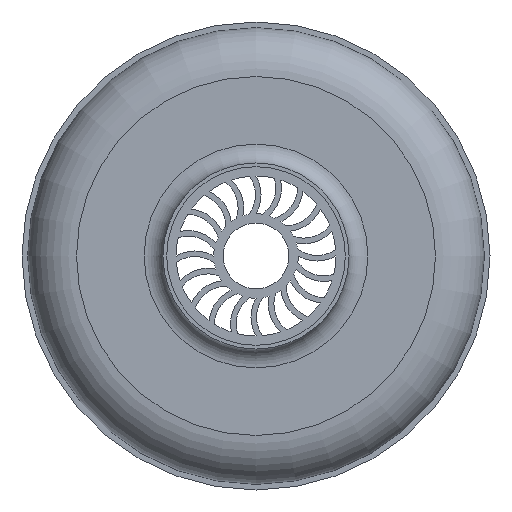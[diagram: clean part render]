
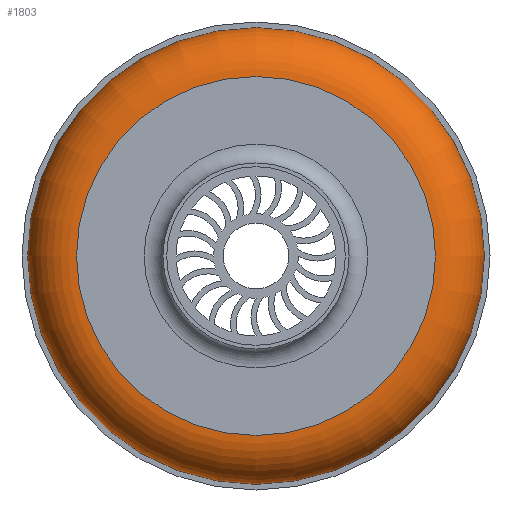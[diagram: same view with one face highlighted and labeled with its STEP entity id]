
A CAD part, left-side view. The second image highlights one B-rep face of the part: STEP entity #1803.
In plain terms, the highlighted toroidal (fillet/blend) face has major radius 95.5 mm and minor radius 26 mm.
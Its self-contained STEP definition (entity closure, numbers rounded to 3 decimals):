
#180=TOROIDAL_SURFACE('',#1926,95.5,26.);
#199=FACE_BOUND('',#378,.T.);
#265=FACE_OUTER_BOUND('',#377,.T.);
#377=EDGE_LOOP('',(#1187));
#378=EDGE_LOOP('',(#1188));
#541=CIRCLE('',#1920,121.5);
#544=CIRCLE('',#1925,95.5);
#727=VERTEX_POINT('',#2883);
#730=VERTEX_POINT('',#2891);
#913=EDGE_CURVE('',#727,#727,#541,.T.);
#916=EDGE_CURVE('',#730,#730,#544,.T.);
#1187=ORIENTED_EDGE('',*,*,#913,.F.);
#1188=ORIENTED_EDGE('',*,*,#916,.T.);
#1803=ADVANCED_FACE('',(#265,#199),#180,.T.);
#1920=AXIS2_PLACEMENT_3D('',#2884,#2222,#2223);
#1925=AXIS2_PLACEMENT_3D('',#2892,#2232,#2233);
#1926=AXIS2_PLACEMENT_3D('',#2893,#2234,#2235);
#2222=DIRECTION('center_axis',(1.,0.,0.));
#2223=DIRECTION('ref_axis',(0.,0.,-1.));
#2232=DIRECTION('center_axis',(1.,0.,0.));
#2233=DIRECTION('ref_axis',(0.,0.,-1.));
#2234=DIRECTION('center_axis',(1.,0.,0.));
#2235=DIRECTION('ref_axis',(0.,0.,-1.));
#2883=CARTESIAN_POINT('',(52.,121.5,0.));
#2884=CARTESIAN_POINT('Origin',(52.,0.,0.));
#2891=CARTESIAN_POINT('',(26.,95.5,0.));
#2892=CARTESIAN_POINT('Origin',(26.,0.,0.));
#2893=CARTESIAN_POINT('Origin',(52.,0.,0.));
